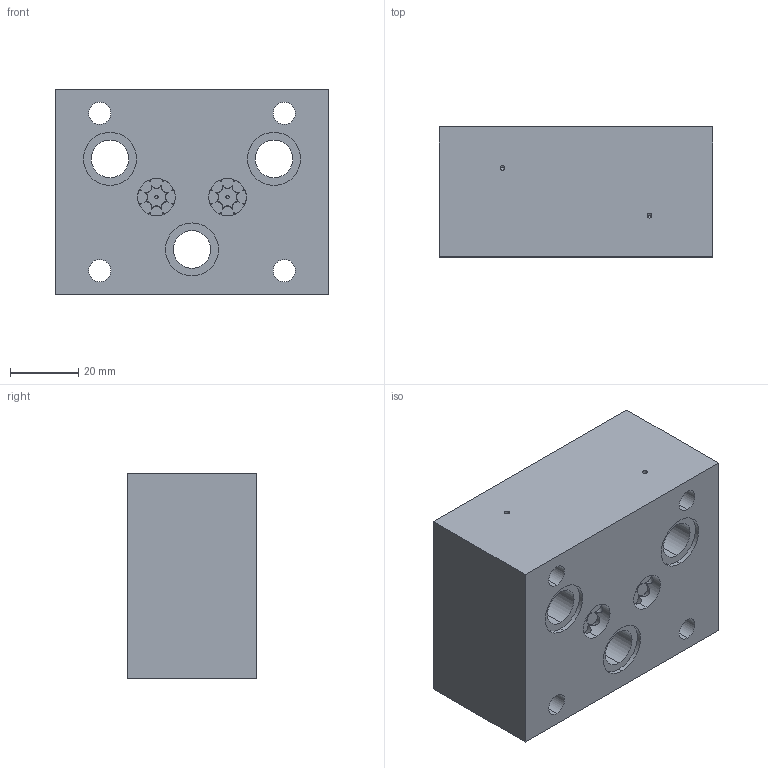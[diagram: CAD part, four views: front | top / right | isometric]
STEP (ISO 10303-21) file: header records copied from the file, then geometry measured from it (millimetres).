
FILE_DESCRIPTION (( 'STEP AP214' ), '1' );
FILE_NAME ('ARVAB10.STEP', '2017-04-11T09:36:26', ( '' ), ( '' ), 'SwSTEP 2.0', 'SolidWorks 2016', '' );
FILE_SCHEMA (( 'AUTOMOTIVE_DESIGN' ));
Length unit declared in the file: millimetre
Products named in the file (1): ARVAB10
Bounding box: 80 x 38 x 60 mm (x, y, z)
Volume: 162975.9 mm3; surface area: 28577.9 mm2
Topology: 1 solids, 3 shells, 179 faces, 452 edges, 294 vertices
Faces by surface type: cylinder 100, plane 43, torus 24, cone 12
Entity records: 7803 total; most frequent: CARTESIAN_POINT 1966, ORIENTED_EDGE 896, DIRECTION 772, EDGE_CURVE 448, AXIS2_PLACEMENT_3D 340, VERTEX_POINT 294, EDGE_LOOP 216, FACE_OUTER_BOUND 179
